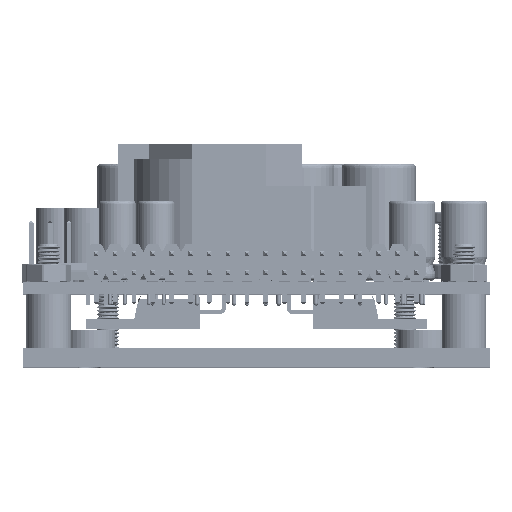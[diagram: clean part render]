
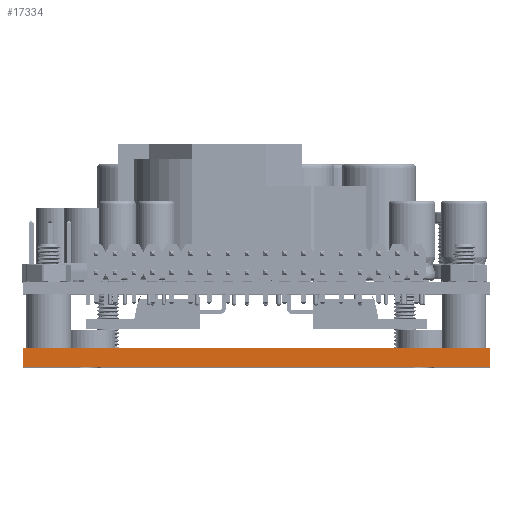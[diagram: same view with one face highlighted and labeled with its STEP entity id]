
A CAD part, top view. The second image highlights one B-rep face of the part: STEP entity #17334.
In plain terms, the highlighted planar face has unit normal (0, 0, 1).
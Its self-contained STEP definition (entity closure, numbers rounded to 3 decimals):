
#172 = EDGE_CURVE ( 'NONE', #80431, #53859, #30075, .T. ) ;
#2316 = FACE_OUTER_BOUND ( 'NONE', #64699, .T. ) ;
#3673 = CARTESIAN_POINT ( 'NONE',  ( 0., 2.5, 0. ) ) ;
#3811 = VECTOR ( 'NONE', #106016, 1000. ) ;
#4217 = VERTEX_POINT ( 'NONE', #50136 ) ;
#13979 = LINE ( 'NONE', #36367, #86883 ) ;
#17334 = ADVANCED_FACE ( 'NONE', ( #2316 ), #50184, .F. ) ;
#24849 = VECTOR ( 'NONE', #82207, 1000. ) ;
#29296 = EDGE_CURVE ( 'NONE', #34860, #4217, #83353, .T. ) ;
#30075 = LINE ( 'NONE', #66239, #24849 ) ;
#32684 = EDGE_CURVE ( 'NONE', #34860, #80431, #61446, .T. ) ;
#34860 = VERTEX_POINT ( 'NONE', #3673 ) ;
#36367 = CARTESIAN_POINT ( 'NONE',  ( 0., 0., 0. ) ) ;
#42168 = ORIENTED_EDGE ( 'NONE', *, *, #87096, .T. ) ;
#49950 = CARTESIAN_POINT ( 'NONE',  ( 63., 2.5, 0. ) ) ;
#50136 = CARTESIAN_POINT ( 'NONE',  ( 0., 0., 0. ) ) ;
#50184 = PLANE ( 'NONE',  #99975 ) ;
#50995 = VECTOR ( 'NONE', #79867, 1000. ) ;
#53859 = VERTEX_POINT ( 'NONE', #57448 ) ;
#57448 = CARTESIAN_POINT ( 'NONE',  ( 63., 0., 0. ) ) ;
#61446 = LINE ( 'NONE', #96576, #50995 ) ;
#64699 = EDGE_LOOP ( 'NONE', ( #42168, #104063, #84943, #70052 ) ) ;
#66239 = CARTESIAN_POINT ( 'NONE',  ( 63., 2.5, 0. ) ) ;
#70052 = ORIENTED_EDGE ( 'NONE', *, *, #29296, .T. ) ;
#79867 = DIRECTION ( 'NONE',  ( 1., 0., 0. ) ) ;
#80431 = VERTEX_POINT ( 'NONE', #49950 ) ;
#82020 = CARTESIAN_POINT ( 'NONE',  ( 0., 2.5, 0. ) ) ;
#82207 = DIRECTION ( 'NONE',  ( 0., -1., 0. ) ) ;
#83338 = DIRECTION ( 'NONE',  ( -1., 0., 0. ) ) ;
#83353 = LINE ( 'NONE', #82020, #3811 ) ;
#84943 = ORIENTED_EDGE ( 'NONE', *, *, #32684, .F. ) ;
#86883 = VECTOR ( 'NONE', #94006, 1000. ) ;
#87096 = EDGE_CURVE ( 'NONE', #4217, #53859, #13979, .T. ) ;
#94006 = DIRECTION ( 'NONE',  ( 1., 0., 0. ) ) ;
#96576 = CARTESIAN_POINT ( 'NONE',  ( 0., 2.5, 0. ) ) ;
#99316 = DIRECTION ( 'NONE',  ( 0., 0., -1. ) ) ;
#99975 = AXIS2_PLACEMENT_3D ( 'NONE', #100039, #99316, #83338 ) ;
#100039 = CARTESIAN_POINT ( 'NONE',  ( 0., 2.5, 0. ) ) ;
#104063 = ORIENTED_EDGE ( 'NONE', *, *, #172, .F. ) ;
#106016 = DIRECTION ( 'NONE',  ( 0., -1., 0. ) ) ;
